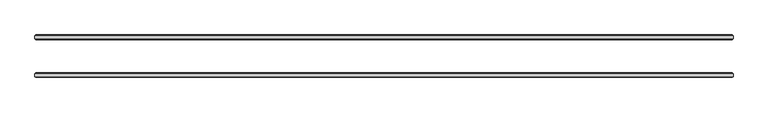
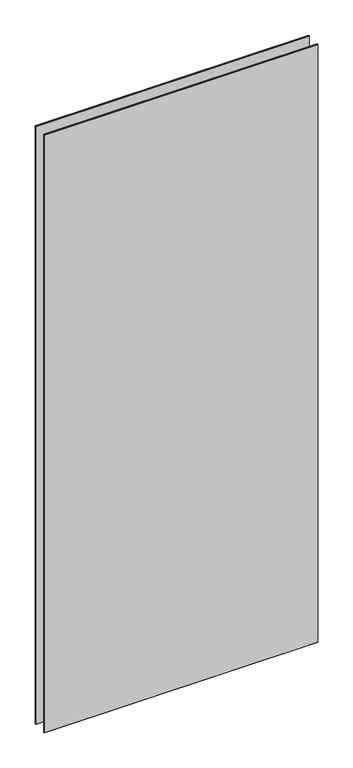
"""IFC4 building model written with IfcOpenShell, lengths in millimetres: plate geometry, 3-AMG-2-Панель двойной витраж 8, 10 : Смещение 32 Толщина 8mm."""

from ifc_helpers import new_model, si_unit, origin, place, context, project, spatial, faceted_brep, source, transform, mapped, element, save


def plate_0a2dd671(model_context):
    return source(origin(), model_context, "Body", "Brep", [
        faceted_brep([(590.3535157, -34.4961653, 2722.8), (590.3535157, -29.5038347, 2722.8), (-590.3535157, -29.5038347, 2722.8), (-590.3535157, -34.4961653, 2722.8), (590.3535157, -29.5038347, -7.0), (590.3535157, -34.4961653, -7.0), (-590.3535157, -34.4961653, -7.0), (-590.3535157, -29.5038347, -7.0), (-588.849681, -28.0, 2721.2961653), (588.849681, -28.0, 2721.2961653), (588.849681, -28.0, -5.5039422), (-588.849681, -28.0, -5.5039422), (588.849681, -36.0, 2721.2961653), (-588.849681, -36.0, 2721.2961653), (-588.849681, -36.0, -5.4961653), (588.849681, -36.0, -5.4961653)], [[[0, 1, 2, 3]], [[4, 5, 6, 7]], [[8, 9, 10, 11]], [[3, 2, 7, 6]], [[12, 13, 14, 15]], [[1, 0, 5, 4]], [[1, 4, 10, 9]], [[5, 0, 12, 15]], [[0, 3, 13, 12]], [[2, 1, 9, 8]], [[7, 2, 8, 11]], [[3, 6, 14, 13]], [[6, 5, 15, 14]], [[4, 7, 11, 10]]]),
        faceted_brep([(590.3535157, 29.5038347, 2722.8), (590.3535157, 34.4961653, 2722.8), (-590.3535157, 34.4961653, 2722.8), (-590.3535157, 29.5038347, 2722.8), (590.3535157, 34.4961653, -7.0), (590.3535157, 29.5038347, -7.0), (-590.3535157, 29.5038347, -7.0), (-590.3535157, 34.4961653, -7.0), (-588.849681, 36.0, 2721.2961653), (588.849681, 36.0, 2721.2961653), (588.849681, 36.0, -5.5039422), (-588.849681, 36.0, -5.5039422), (588.849681, 28.0, 2721.2961653), (-588.849681, 28.0, 2721.2961653), (-588.849681, 28.0, -5.4961653), (588.849681, 28.0, -5.4961653)], [[[0, 1, 2, 3]], [[4, 5, 6, 7]], [[8, 9, 10, 11]], [[3, 2, 7, 6]], [[12, 13, 14, 15]], [[1, 0, 5, 4]], [[1, 4, 10, 9]], [[5, 0, 12, 15]], [[7, 2, 8, 11]], [[3, 6, 14, 13]], [[0, 3, 13, 12]], [[2, 1, 9, 8]], [[6, 5, 15, 14]], [[4, 7, 11, 10]]]),
    ])


if __name__ == "__main__":
    model = new_model("IFC4")
    model_context = context("Model", 3, world=origin())
    ifc_project = project(units=[si_unit("LENGTHUNIT", "METRE", prefix="MILLI")], contexts=[model_context])
    site = spatial("IfcSite", under=ifc_project)
    building = spatial("IfcBuilding", under=site)
    placement = place(None, origin())
    plate_shape = plate_0a2dd671(model_context)
    element("IfcPlate", 1, ObjectType="3-AMG-2-Панель двойной витраж 8, 10 : Смещение 32 Толщина 8mm", at=placement, inside=building, context=model_context, shape_type="MappedRepresentation", body=[
        mapped(plate_shape, transform((0.0, 0.0, 0.0), x_axis=(1.0, 0.0, 0.0), y_axis=(0.0, 1.0, 0.0), z_axis=(0.0, 0.0, 1.0))),
    ])
    save(model, "model.ifc")
